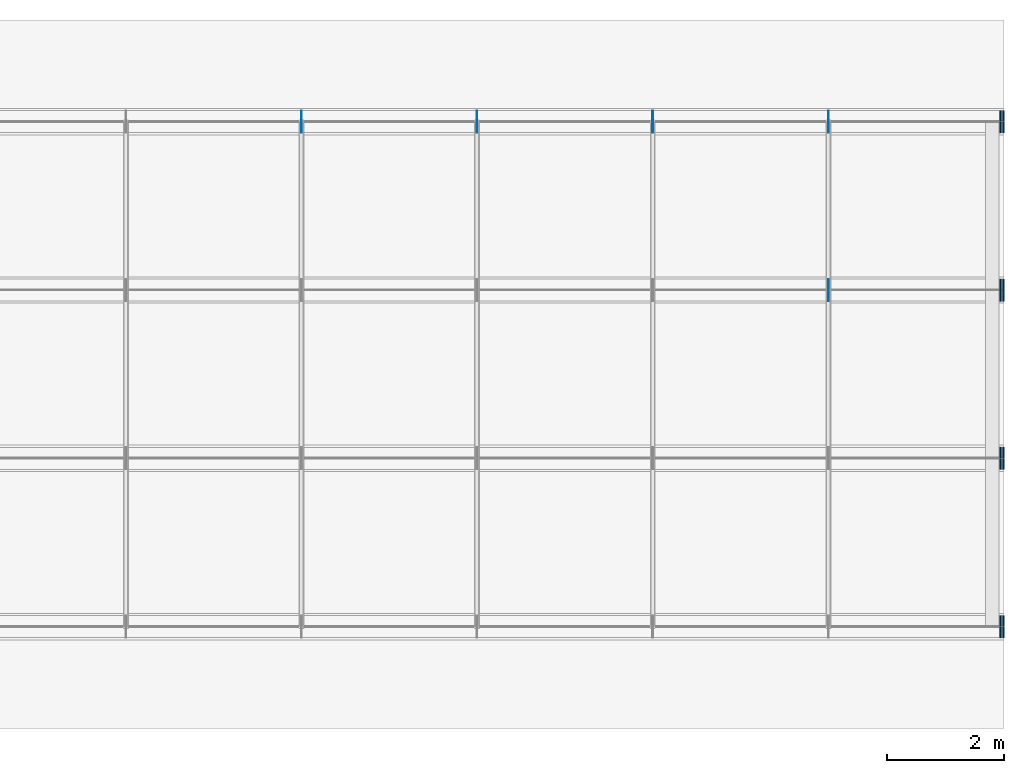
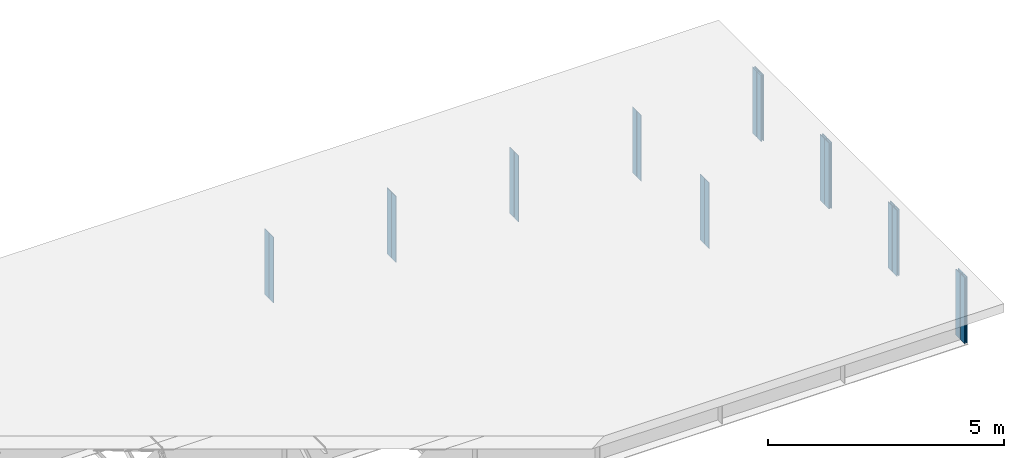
# One storey, part 11 of 11: 26 plates.
"""IFC4 building model written with IfcOpenShell, lengths in metres."""

from ifc_helpers import new_model, si_unit, frame, origin, origin_with_axes, origin_2d_with_axis, place, context, subcontext, project, spatial, rectangle, extrude, element, save


model = new_model("IFC4")

# Units and contexts
model_context = context("Model", 3, precision=1e-05, world=origin())
body_context = subcontext(model_context, "Body", "Model", "MODEL_VIEW")
ifc_project = project(units=[si_unit("LENGTHUNIT", "METRE"), si_unit("AREAUNIT", "SQUARE_METRE"), si_unit("VOLUMEUNIT", "CUBIC_METRE"), si_unit("PLANEANGLEUNIT", "RADIAN")], contexts=[model_context])

# Site, building, storey
site_placement = place(None, origin_with_axes())
site = spatial("IfcSite", under=ifc_project, at=site_placement, Name="Default Site")
building_placement = place(site_placement, origin_with_axes())
building = spatial("IfcBuilding", under=site, at=building_placement, Name="Bridge Structure")
storey_placement = place(building_placement, origin_with_axes())
storey = spatial("IfcBuildingStorey", under=building, at=storey_placement, Name="Superstructure")

# Plates
for number, where, z_axis, x_axis, name in (
    (1, (29.990000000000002, -4.21525, -0.856), (0.0, 0.0, 1.0), (1.0, 0.0, 0.0), "End Stiffener 1"),
    (2, (29.990000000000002, -4.40975, -0.856), (0.0, 0.0, 1.0), (1.0, 0.0, 0.0), "End Stiffener 1"),
    (3, (29.94, -4.21525, -0.856), (0.0, 0.0, 1.0), (1.0, 0.0, 0.0), "End Stiffener 1"),
    (4, (29.94, -4.40975, -0.856), (0.0, 0.0, 1.0), (1.0, 0.0, 0.0), "End Stiffener 1"),
    (5, (29.990000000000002, -1.34025, -0.856), (0.0, 0.0, 1.0), (1.0, 0.0, 0.0), "End Stiffener 2"),
    (6, (29.990000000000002, -1.53475, -0.856), (0.0, 0.0, 1.0), (1.0, 0.0, 0.0), "End Stiffener 2"),
    (7, (29.94, -1.34025, -0.856), (0.0, 0.0, 1.0), (1.0, 0.0, 0.0), "End Stiffener 2"),
    (8, (29.94, -1.53475, -0.856), (0.0, 0.0, 1.0), (1.0, 0.0, 0.0), "End Stiffener 2"),
):
    element("IfcPlate", number, at=place(storey_placement, frame(where, z_axis=z_axis, x_axis=x_axis)), inside=storey, Name=name, context=body_context, shape_type="SweptSolid", body=[
        extrude(rectangle(XDim=0.02, YDim=0.1805, at=origin_2d_with_axis()), origin_with_axes(), (0.0, 0.0, 1.0), 1.712),
    ])
for number, where, z_axis, x_axis, name in (
    (9, (27.0, 1.53475, -0.856), (0.0, 0.0, 1.0), (1.0, 0.0, 0.0), "Intermediate Stiffener 3"),
    (10, (27.0, 1.34025, -0.856), (0.0, 0.0, 1.0), (1.0, 0.0, 0.0), "Intermediate Stiffener 3"),
):
    element("IfcPlate", number, at=place(storey_placement, frame(where, z_axis=z_axis, x_axis=x_axis)), inside=storey, Name=name, context=body_context, shape_type="SweptSolid", body=[
        extrude(rectangle(XDim=0.012, YDim=0.1805, at=origin_2d_with_axis()), origin_with_axes(), (0.0, 0.0, 1.0), 1.712),
    ])
for number, where, z_axis, x_axis, name in (
    (11, (29.990000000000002, 1.53475, -0.856), (0.0, 0.0, 1.0), (1.0, 0.0, 0.0), "End Stiffener 3"),
    (12, (29.990000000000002, 1.34025, -0.856), (0.0, 0.0, 1.0), (1.0, 0.0, 0.0), "End Stiffener 3"),
    (13, (29.94, 1.53475, -0.856), (0.0, 0.0, 1.0), (1.0, 0.0, 0.0), "End Stiffener 3"),
    (14, (29.94, 1.34025, -0.856), (0.0, 0.0, 1.0), (1.0, 0.0, 0.0), "End Stiffener 3"),
):
    element("IfcPlate", number, at=place(storey_placement, frame(where, z_axis=z_axis, x_axis=x_axis)), inside=storey, Name=name, context=body_context, shape_type="SweptSolid", body=[
        extrude(rectangle(XDim=0.02, YDim=0.1805, at=origin_2d_with_axis()), origin_with_axes(), (0.0, 0.0, 1.0), 1.712),
    ])
for number, where, z_axis, x_axis, name in (
    (15, (18.0, 4.40975, -0.856), (0.0, 0.0, 1.0), (1.0, 0.0, 0.0), "Intermediate Stiffener 4"),
    (16, (18.0, 4.21525, -0.856), (0.0, 0.0, 1.0), (1.0, 0.0, 0.0), "Intermediate Stiffener 4"),
    (17, (21.0, 4.40975, -0.856), (0.0, 0.0, 1.0), (1.0, 0.0, 0.0), "Intermediate Stiffener 4"),
    (18, (21.0, 4.21525, -0.856), (0.0, 0.0, 1.0), (1.0, 0.0, 0.0), "Intermediate Stiffener 4"),
    (19, (24.0, 4.40975, -0.856), (0.0, 0.0, 1.0), (1.0, 0.0, 0.0), "Intermediate Stiffener 4"),
    (20, (24.0, 4.21525, -0.856), (0.0, 0.0, 1.0), (1.0, 0.0, 0.0), "Intermediate Stiffener 4"),
    (21, (27.0, 4.40975, -0.856), (0.0, 0.0, 1.0), (1.0, 0.0, 0.0), "Intermediate Stiffener 4"),
    (22, (27.0, 4.21525, -0.856), (0.0, 0.0, 1.0), (1.0, 0.0, 0.0), "Intermediate Stiffener 4"),
):
    element("IfcPlate", number, at=place(storey_placement, frame(where, z_axis=z_axis, x_axis=x_axis)), inside=storey, Name=name, context=body_context, shape_type="SweptSolid", body=[
        extrude(rectangle(XDim=0.012, YDim=0.1805, at=origin_2d_with_axis()), origin_with_axes(), (0.0, 0.0, 1.0), 1.712),
    ])
for number, where, z_axis, x_axis, name in (
    (23, (29.990000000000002, 4.40975, -0.856), (0.0, 0.0, 1.0), (1.0, 0.0, 0.0), "End Stiffener 4"),
    (24, (29.990000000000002, 4.21525, -0.856), (0.0, 0.0, 1.0), (1.0, 0.0, 0.0), "End Stiffener 4"),
    (25, (29.94, 4.40975, -0.856), (0.0, 0.0, 1.0), (1.0, 0.0, 0.0), "End Stiffener 4"),
    (26, (29.94, 4.21525, -0.856), (0.0, 0.0, 1.0), (1.0, 0.0, 0.0), "End Stiffener 4"),
):
    element("IfcPlate", number, at=place(storey_placement, frame(where, z_axis=z_axis, x_axis=x_axis)), inside=storey, Name=name, context=body_context, shape_type="SweptSolid", body=[
        extrude(rectangle(XDim=0.02, YDim=0.1805, at=origin_2d_with_axis()), origin_with_axes(), (0.0, 0.0, 1.0), 1.712),
    ])

save(model, "model.ifc")
